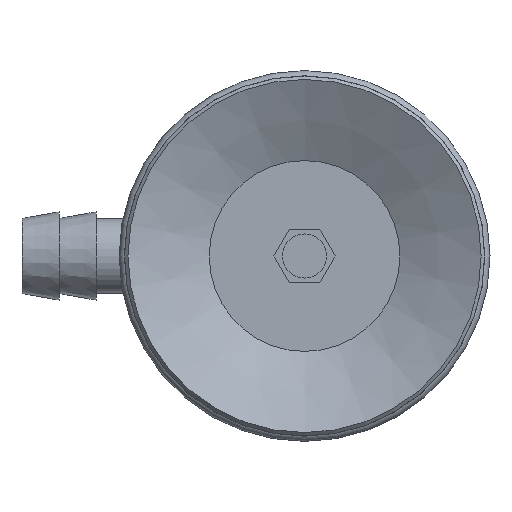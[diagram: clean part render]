
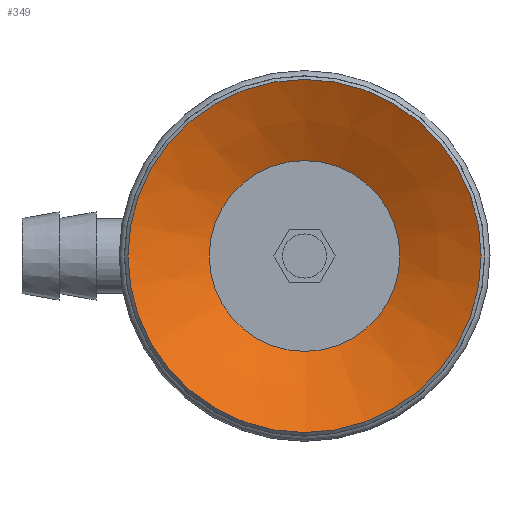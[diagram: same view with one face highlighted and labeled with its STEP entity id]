
A CAD part, front view. The second image highlights one B-rep face of the part: STEP entity #349.
In plain terms, the highlighted conical face has half-angle 63 degrees and reference radius 5.4 mm.
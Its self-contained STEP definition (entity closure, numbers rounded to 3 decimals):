
#349=ADVANCED_FACE('',(#555,#556),#557,.F.);
#555=FACE_BOUND('',#766,.T.);
#556=FACE_OUTER_BOUND('',#767,.T.);
#557=CONICAL_SURFACE('',#768,5.4,1.1);
#766=EDGE_LOOP('',(#1302));
#767=EDGE_LOOP('',(#1303));
#768=AXIS2_PLACEMENT_3D('',#1304,#1305,#1306);
#1302=ORIENTED_EDGE('',*,*,#1456,.F.);
#1303=ORIENTED_EDGE('',*,*,#1463,.T.);
#1304=CARTESIAN_POINT('',(0.0,5.518,0.0));
#1305=DIRECTION('',(-0.0,-1.0,0.));
#1306=DIRECTION('',(0.0,0.,-1.0));
#1456=EDGE_CURVE('',#1700,#1700,#1701,.T.);
#1463=EDGE_CURVE('',#1714,#1714,#1715,.T.);
#1700=VERTEX_POINT('',#2167);
#1701=CIRCLE('',#2168,5.4);
#1714=VERTEX_POINT('',#2181);
#1715=CIRCLE('',#2182,10.0);
#2167=CARTESIAN_POINT('',(0.0,5.518,-5.4));
#2168=AXIS2_PLACEMENT_3D('',#2392,#2393,#2394);
#2181=CARTESIAN_POINT('',(0.0,3.175,-10.0));
#2182=AXIS2_PLACEMENT_3D('',#2413,#2414,#2415);
#2392=CARTESIAN_POINT('',(0.0,5.518,0.0));
#2393=DIRECTION('',(0.0,-1.0,0.));
#2394=DIRECTION('',(0.0,0.,-1.0));
#2413=CARTESIAN_POINT('',(0.0,3.175,0.0));
#2414=DIRECTION('',(0.0,-1.0,0.));
#2415=DIRECTION('',(0.0,0.,-1.0));
